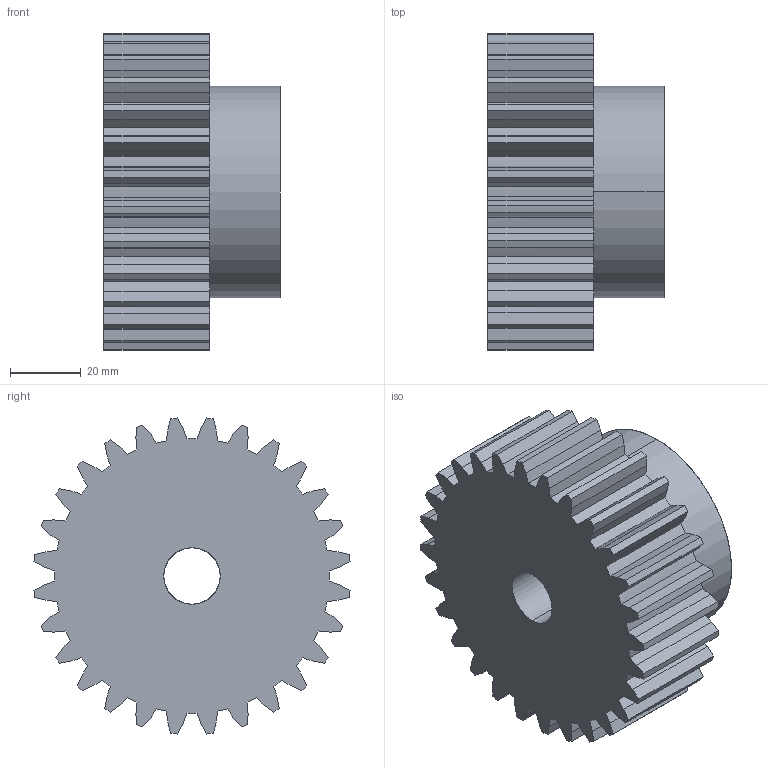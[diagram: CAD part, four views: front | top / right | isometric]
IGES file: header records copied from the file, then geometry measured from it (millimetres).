
Start section: SolidWorks IGES file using analytic representation for surfaces
Global section: file name: C:\Users\Honza\Desktop\Matis (Hotove)\Èelní ozubená kola\PM\MODUL 3\PM 30028.IGS; native system: SolidWorks 2010; preprocessor: SolidWorks 2010; author: Honza; date: 130925.155208; units: millimetre
Bounding box: 50 x 89.64 x 89.64 mm (x, y, z)
Surface area: 31718.8 mm2 (no closed solid volume)
Topology: 0 solids, 0 shells, 175 faces, 1217 edges, 1217 vertices
Faces by surface type: bspline 115, revolution 60
